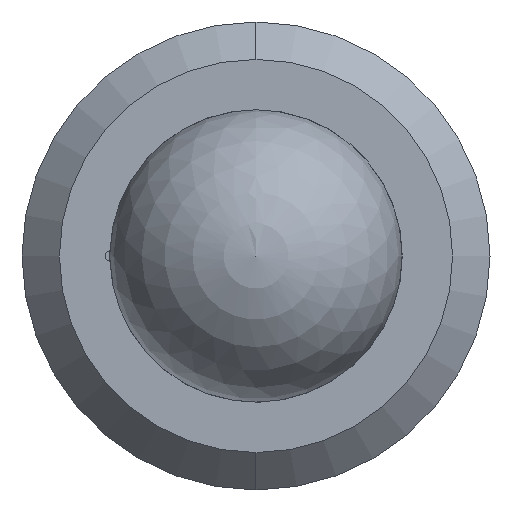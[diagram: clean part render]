
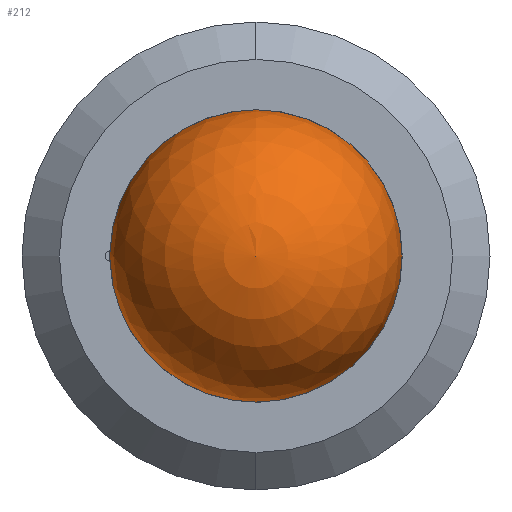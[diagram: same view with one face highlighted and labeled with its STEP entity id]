
A CAD part, left-side view. The second image highlights one B-rep face of the part: STEP entity #212.
In plain terms, the highlighted spherical face has radius 1.984 mm.
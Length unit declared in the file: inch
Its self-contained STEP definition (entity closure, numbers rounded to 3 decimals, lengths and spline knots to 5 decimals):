
#8 = VERTEX_POINT ( 'NONE', #117 ) ;
#31 = DIRECTION ( 'NONE',  ( -1., 0., 0. ) ) ;
#60 = AXIS2_PLACEMENT_3D ( 'NONE', #68, #570, #139 ) ;
#68 = CARTESIAN_POINT ( 'NONE',  ( 0., 0., 0. ) ) ;
#75 = ORIENTED_EDGE ( 'NONE', *, *, #431, .T. ) ;
#117 = CARTESIAN_POINT ( 'NONE',  ( 0., 0.07809, -0.0025 ) ) ;
#139 = DIRECTION ( 'NONE',  ( 0., 0., 1. ) ) ;
#146 = ORIENTED_EDGE ( 'NONE', *, *, #506, .F. ) ;
#212 = ADVANCED_FACE ( 'NONE', ( #484 ), #685, .T. ) ;
#213 = CARTESIAN_POINT ( 'NONE',  ( 0., 0., 0. ) ) ;
#280 = DIRECTION ( 'NONE',  ( 0., 0., 1. ) ) ;
#353 = CARTESIAN_POINT ( 'NONE',  ( 0., 0.07809, 0.0025 ) ) ;
#365 = DIRECTION ( 'NONE',  ( 1., 0., 0. ) ) ;
#386 = CARTESIAN_POINT ( 'NONE',  ( 0., 0., 0. ) ) ;
#393 = VERTEX_POINT ( 'NONE', #353 ) ;
#405 = EDGE_CURVE ( 'NONE', #393, #8, #827, .T. ) ;
#431 = EDGE_CURVE ( 'NONE', #8, #627, #449, .T. ) ;
#449 = CIRCLE ( 'NONE', #683, 0.07813 ) ;
#484 = FACE_OUTER_BOUND ( 'NONE', #561, .T. ) ;
#506 = EDGE_CURVE ( 'NONE', #393, #627, #823, .T. ) ;
#530 = AXIS2_PLACEMENT_3D ( 'NONE', #386, #31, #534 ) ;
#534 = DIRECTION ( 'NONE',  ( 0., 0., 1. ) ) ;
#561 = EDGE_LOOP ( 'NONE', ( #650, #75, #146 ) ) ;
#570 = DIRECTION ( 'NONE',  ( -1., 0., 0. ) ) ;
#627 = VERTEX_POINT ( 'NONE', #678 ) ;
#650 = ORIENTED_EDGE ( 'NONE', *, *, #405, .T. ) ;
#678 = CARTESIAN_POINT ( 'NONE',  ( 0., -0.07813, 0. ) ) ;
#683 = AXIS2_PLACEMENT_3D ( 'NONE', #213, #717, #280 ) ;
#685 = SPHERICAL_SURFACE ( 'NONE', #530, 0.07813 ) ;
#717 = DIRECTION ( 'NONE',  ( -1., 0., 0. ) ) ;
#787 = CARTESIAN_POINT ( 'NONE',  ( 0., 0., 0. ) ) ;
#823 = CIRCLE ( 'NONE', #850, 0.07813 ) ;
#827 = CIRCLE ( 'NONE', #60, 0.07813 ) ;
#850 = AXIS2_PLACEMENT_3D ( 'NONE', #787, #365, #851 ) ;
#851 = DIRECTION ( 'NONE',  ( 0., 0., -1. ) ) ;
